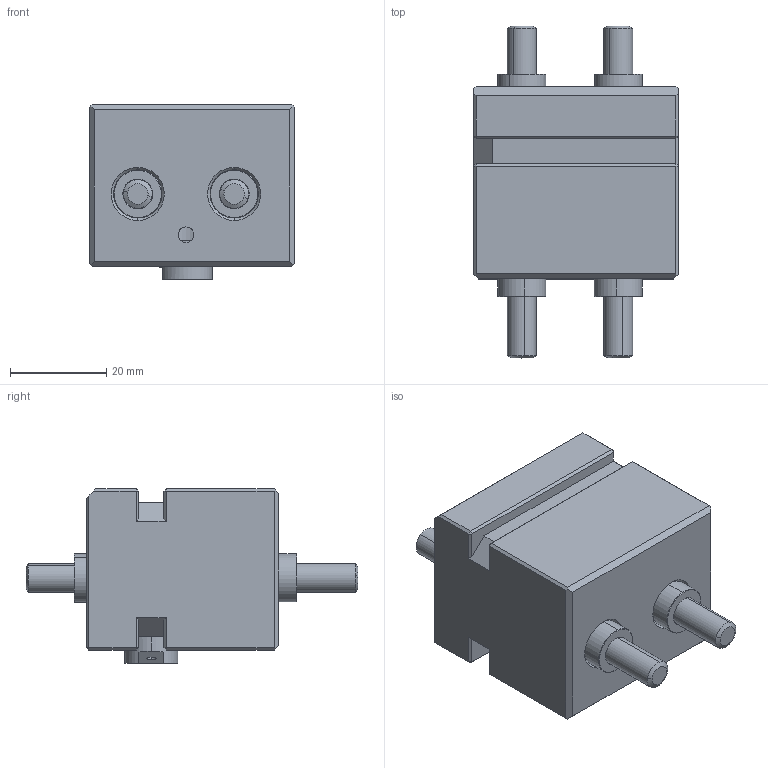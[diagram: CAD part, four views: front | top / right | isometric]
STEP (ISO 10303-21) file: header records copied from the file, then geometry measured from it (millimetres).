
FILE_DESCRIPTION (( 'STEP AP203' ), '1' );
FILE_NAME ('FK-ZM20.STEP', '2026-05-14T06:30:28', ( 'USER-' ), ( 'Microsoft' ), 'SwSTEP 2.0', 'SolidWorks 2018', '' );
FILE_SCHEMA (( 'CONFIG_CONTROL_DESIGN' ));
Length unit declared in the file: millimetre
Products named in the file (8): 111111FK-ZM16-01 假蚾價釱; 内六角沉头螺钉[GBT70_3-2008][M6×25×20]_M6×25×20; FK-ZM20-03 巠饜种-1; FK-ZM20-04 隅弇种杶-1; FK-ZM20; FK-ZM20-02 坶踡种-1; 12x8-R2-1; 内六角圆柱头螺钉[GBT70_1-2008][M6×35]_M6×35
Assembly tree (11 placements, depth 2):
  FK-ZM20
    111111FK-ZM16-01 假蚾價釱
    FK-ZM20-02 坶踡种-1
    FK-ZM20-03 巠饜种-1  x2
    12x8-R2-1
    FK-ZM20-04 隅弇种杶-1  x2
    内六角圆柱头螺钉[GBT70_1-2008][M6×35]_M6×35  x2
    内六角沉头螺钉[GBT70_3-2008][M6×25×20]_M6×25×20  x2
Bounding box: 42.5 x 68.9 x 36.2 mm (x, y, z)
Volume: 54731.1 mm3; surface area: 21909.6 mm2
Topology: 11 solids, 11 shells, 709 faces, 1837 edges, 1186 vertices
Faces by surface type: plane 362, bspline 159, cylinder 121, cone 55, torus 12
Entity records: 29482 total; most frequent: CARTESIAN_POINT 13668, ORIENTED_EDGE 3368, DIRECTION 2561, EDGE_CURVE 1684, VERTEX_POINT 1097, VECTOR 1091, LINE 1091, AXIS2_PLACEMENT_3D 735
